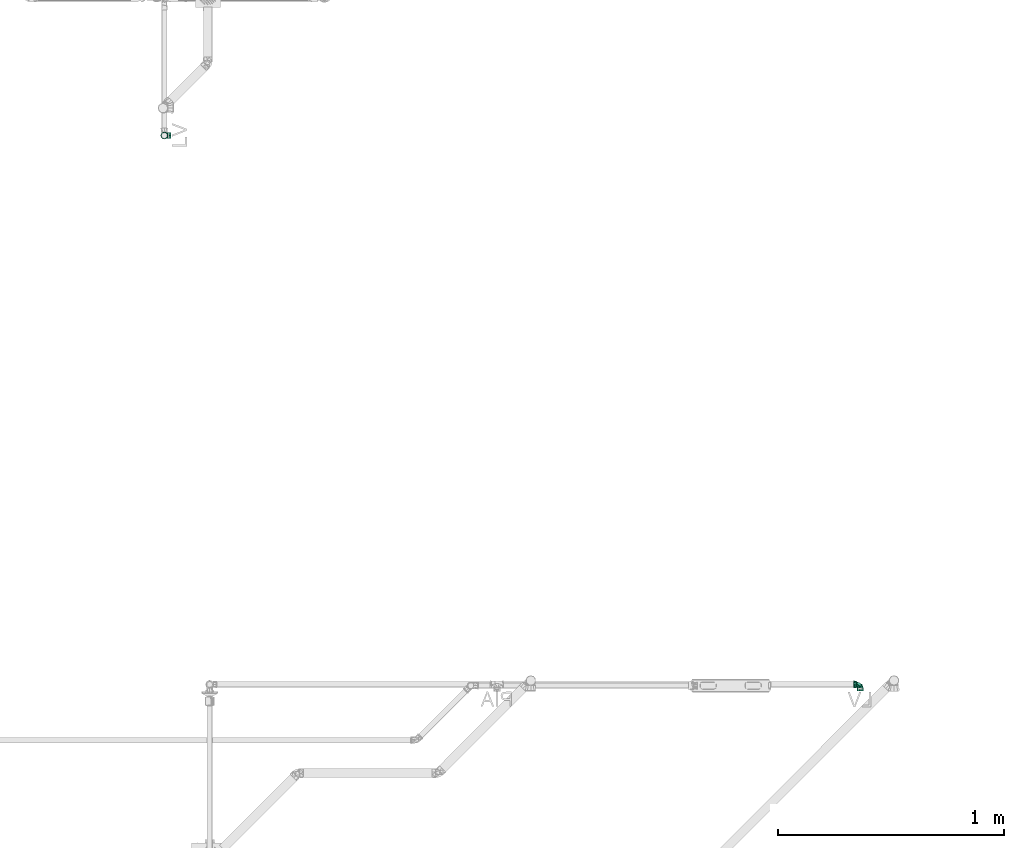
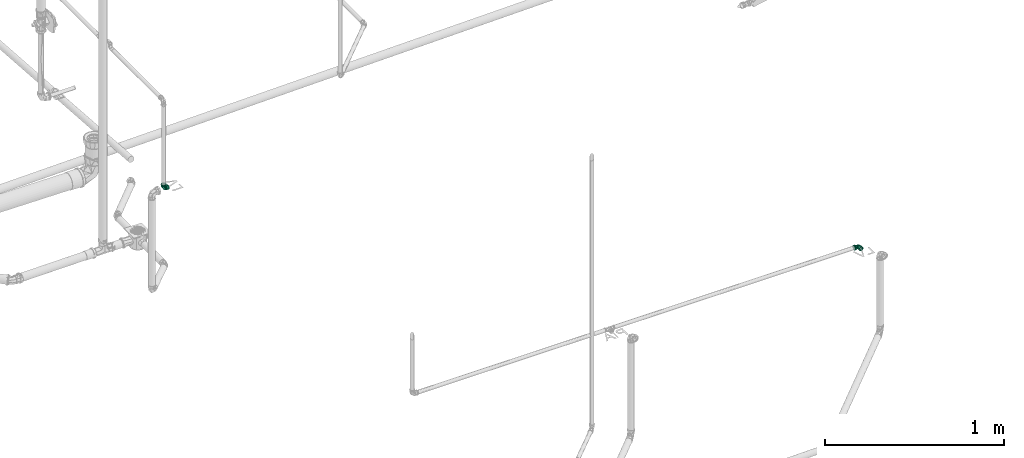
# One storey, part 352 of 589: 2 flow fittings.
"""IFC2X3 building model written with IfcOpenShell, lengths in millimetres."""

from ifc_helpers import new_model, entity, si_unit, converted_unit, derived_unit, direction, frame, origin, place, context, subcontext, project, spatial, faceted_brep, source, transform, mapped, material, type_object, type_shapes, element, save


model = new_model("IFC2X3")

# Units and contexts
model_context = context("Model", 3, precision=0.01, world=origin(), true_north=direction((6.123031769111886e-17, 1.0)))
body_context = subcontext(model_context, "Body", "Model", "MODEL_VIEW")
ifc_project = project(units=[si_unit("LENGTHUNIT", "METRE", prefix="MILLI"), si_unit("AREAUNIT", "SQUARE_METRE"), si_unit("VOLUMEUNIT", "CUBIC_METRE"), converted_unit("PLANEANGLEUNIT", "DEGREE", entity("IfcRatioMeasure", 0.017453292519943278), si_unit("PLANEANGLEUNIT", "RADIAN"), dimensions=[0, 0, 0, 0, 0, 0, 0]), si_unit("MASSUNIT", "GRAM", prefix="KILO"), derived_unit("MASSDENSITYUNIT", [(si_unit("MASSUNIT", "GRAM", prefix="KILO"), 1), (si_unit("LENGTHUNIT", "METRE"), -3)]), derived_unit("IONCONCENTRATIONUNIT", [(si_unit("MASSUNIT", "GRAM", prefix="KILO"), 1), (si_unit("LENGTHUNIT", "METRE"), -3)]), derived_unit("MOMENTOFINERTIAUNIT", [(si_unit("LENGTHUNIT", "METRE"), 4)]), si_unit("TIMEUNIT", "SECOND"), si_unit("FREQUENCYUNIT", "HERTZ"), si_unit("THERMODYNAMICTEMPERATUREUNIT", "DEGREE_CELSIUS"), derived_unit("THERMALTRANSMITTANCEUNIT", [(si_unit("MASSUNIT", "GRAM", prefix="KILO"), 1), (si_unit("THERMODYNAMICTEMPERATUREUNIT", "KELVIN"), -1), (si_unit("TIMEUNIT", "SECOND"), -3)]), derived_unit("THERMALCONDUCTANCEUNIT", [(si_unit("MASSUNIT", "GRAM", prefix="KILO"), 1), (si_unit("THERMODYNAMICTEMPERATUREUNIT", "KELVIN"), -1), (si_unit("TIMEUNIT", "SECOND"), -3), (si_unit("LENGTHUNIT", "METRE"), 1)]), derived_unit("VOLUMETRICFLOWRATEUNIT", [(si_unit("LENGTHUNIT", "METRE"), 3), (si_unit("TIMEUNIT", "SECOND"), -1)]), derived_unit("MASSFLOWRATEUNIT", [(si_unit("MASSUNIT", "GRAM", prefix="KILO"), 1), (si_unit("TIMEUNIT", "SECOND"), -1)]), derived_unit("ROTATIONALFREQUENCYUNIT", [(si_unit("TIMEUNIT", "SECOND"), -1)]), si_unit("ELECTRICCURRENTUNIT", "AMPERE"), si_unit("ELECTRICVOLTAGEUNIT", "VOLT"), si_unit("POWERUNIT", "WATT"), si_unit("FORCEUNIT", "NEWTON", prefix="KILO"), si_unit("ILLUMINANCEUNIT", "LUX"), si_unit("LUMINOUSFLUXUNIT", "LUMEN"), si_unit("LUMINOUSINTENSITYUNIT", "CANDELA"), derived_unit("USERDEFINED", [(si_unit("MASSUNIT", "GRAM", prefix="KILO"), -1), (si_unit("LENGTHUNIT", "METRE"), -2), (si_unit("TIMEUNIT", "SECOND"), 3), (si_unit("LUMINOUSFLUXUNIT", "LUMEN"), 1)]), derived_unit("USERDEFINED", [(si_unit("MASSUNIT", "GRAM", prefix="KILO"), 1), (si_unit("TIMEUNIT", "SECOND"), -3), (si_unit("LENGTHUNIT", "METRE"), 3), (si_unit("ELECTRICCURRENTUNIT", "AMPERE"), -2)]), derived_unit("SOUNDPOWERUNIT", [(si_unit("MASSUNIT", "GRAM", prefix="KILO"), 1), (si_unit("TIMEUNIT", "SECOND"), -3), (si_unit("LENGTHUNIT", "METRE"), 2)]), derived_unit("SOUNDPRESSUREUNIT", [(si_unit("MASSUNIT", "GRAM", prefix="KILO"), 1), (si_unit("LENGTHUNIT", "METRE"), -1), (si_unit("TIMEUNIT", "SECOND"), -2)]), derived_unit("LINEARVELOCITYUNIT", [(si_unit("LENGTHUNIT", "METRE"), 1), (si_unit("TIMEUNIT", "SECOND"), -1)]), si_unit("PRESSUREUNIT", "PASCAL"), derived_unit("USERDEFINED", [(si_unit("MASSUNIT", "GRAM", prefix="KILO"), 1), (si_unit("LENGTHUNIT", "METRE"), -2), (si_unit("TIMEUNIT", "SECOND"), -2)]), derived_unit("LINEARFORCEUNIT", [(si_unit("MASSUNIT", "GRAM", prefix="KILO"), 1), (si_unit("TIMEUNIT", "SECOND"), -2)]), derived_unit("PLANARFORCEUNIT", [(si_unit("MASSUNIT", "GRAM", prefix="KILO"), 1), (si_unit("LENGTHUNIT", "METRE"), -1), (si_unit("TIMEUNIT", "SECOND"), -2)]), derived_unit("SPECIFICHEATCAPACITYUNIT", [(si_unit("THERMODYNAMICTEMPERATUREUNIT", "KELVIN"), -1), (si_unit("LENGTHUNIT", "METRE"), 2), (si_unit("TIMEUNIT", "SECOND"), -2)]), derived_unit("HEATINGVALUEUNIT", [(si_unit("LENGTHUNIT", "METRE"), 2), (si_unit("TIMEUNIT", "SECOND"), -2)]), derived_unit("VAPORPERMEABILITYUNIT", [(si_unit("LENGTHUNIT", "METRE"), -1), (si_unit("TIMEUNIT", "SECOND"), 1)]), derived_unit("DYNAMICVISCOSITYUNIT", [(si_unit("MASSUNIT", "GRAM", prefix="KILO"), 1), (si_unit("TIMEUNIT", "SECOND"), -1), (si_unit("LENGTHUNIT", "METRE"), -1)]), derived_unit("THERMALEXPANSIONCOEFFICIENTUNIT", [(si_unit("THERMODYNAMICTEMPERATUREUNIT", "KELVIN"), -1)]), derived_unit("MODULUSOFELASTICITYUNIT", [(si_unit("MASSUNIT", "GRAM", prefix="KILO"), 1), (si_unit("LENGTHUNIT", "METRE"), -1), (si_unit("TIMEUNIT", "SECOND"), -2)]), derived_unit("ISOTHERMALMOISTURECAPACITYUNIT", [(si_unit("LENGTHUNIT", "METRE"), 3), (si_unit("MASSUNIT", "GRAM", prefix="KILO"), -1)]), derived_unit("MOISTUREDIFFUSIVITYUNIT", [(si_unit("TIMEUNIT", "SECOND"), -1), (si_unit("LENGTHUNIT", "METRE"), 2)])], contexts=[model_context])

# Site, building, storey
site_placement = place(None, origin())
site = spatial("IfcSite", under=ifc_project, at=site_placement, Name="Default", CompositionType="ELEMENT")
building_placement = place(site_placement, origin())
building = spatial("IfcBuilding", under=site, at=building_placement, CompositionType="ELEMENT")
storey_placement = place(building_placement, frame((0.0, 0.0, 100.0)))
storey = spatial("IfcBuildingStorey", under=building, at=storey_placement, Name="TÉRREO", CompositionType="ELEMENT", Elevation=100.0)

# Flow fittings
ifc_material = material(Name="PVC Azul")
pipe_fitting_type = type_object("IfcPipeFittingType", Name="PVC Marrom Soldável_Joelho 90° Azul com Bucha de Latão_Rodrigo MEP:Joelho_20x1/2''_ 25x1/2''_ 25x3/4'' _ 32x3/4''", PredefinedType="NOTDEFINED", material=ifc_material)
shared_shape = source(origin(), body_context, "Body", "Brep", [
    faceted_brep([(-16.299999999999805, 2.5881904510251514, -9.659258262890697), (-16.299999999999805, -2.588190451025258, -9.659258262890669), (-16.299999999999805, -3.7528761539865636, -14.005924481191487), (-16.299999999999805, 3.7528761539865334, -14.005924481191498), (-16.299999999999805, 8.660254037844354, -5.0), (-16.299999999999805, -12.557368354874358, -7.249999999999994), (-16.299999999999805, -8.660254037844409, -5.0), (-16.299999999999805, -10.0, 0.0), (-16.299999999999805, -14.499999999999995, 0.0), (-16.299999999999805, -8.660254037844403, 5.0), (-16.299999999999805, -12.557368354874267, 7.250000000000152), (-16.299999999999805, -2.5881904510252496, 9.659258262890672), (-16.299999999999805, -3.752876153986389, 14.005924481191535), (-16.299999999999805, 2.5881904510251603, 9.659258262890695), (-16.299999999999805, 3.752876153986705, 14.005924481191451), (-16.299999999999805, 8.660254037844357, 5.0), (-16.299999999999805, 12.557368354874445, 7.2499999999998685), (-16.299999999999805, 14.500000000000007, 0.0), (-16.299999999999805, 10.0, 0.0), (-16.299999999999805, 12.557368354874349, -7.250000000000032), (-23.799999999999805, 14.500000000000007, 0.0), (-25.7999999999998, 14.500000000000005, 0.0), (-29.7999999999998, 14.500000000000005, 0.0), (-29.7999999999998, 12.557368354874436, 7.24999999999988), (-25.7999999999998, 12.557368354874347, 7.250000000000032), (-23.799999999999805, 12.557368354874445, 7.2499999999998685), (-29.7999999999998, 3.7528761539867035, 14.005924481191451), (-25.7999999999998, 3.7528761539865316, 14.005924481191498), (-23.799999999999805, 3.752876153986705, 14.005924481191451), (-29.7999999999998, -3.75287615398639, 14.005924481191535), (-25.7999999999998, -3.752876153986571, 14.005924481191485), (-23.799999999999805, -3.752876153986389, 14.005924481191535), (-29.7999999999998, -12.557368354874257, 7.250000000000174), (-25.7999999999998, -12.557368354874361, 7.24999999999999), (-23.799999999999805, -12.557368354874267, 7.250000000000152), (-29.7999999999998, -14.499999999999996, 0.0), (-25.7999999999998, -14.499999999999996, 0.0), (-23.799999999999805, -14.499999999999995, 0.0), (-29.7999999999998, -12.557368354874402, -7.249999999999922), (-25.7999999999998, -12.557368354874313, -7.250000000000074), (-23.799999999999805, -12.557368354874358, -7.249999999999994), (-29.7999999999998, -3.752876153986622, -14.005924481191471), (-25.7999999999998, -3.752876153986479, -14.00592448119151), (-23.799999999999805, -3.7528761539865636, -14.005924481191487), (-29.7999999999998, 3.752876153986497, -14.005924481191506), (-25.7999999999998, 3.7528761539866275, -14.005924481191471), (-23.799999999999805, 3.7528761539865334, -14.005924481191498), (-29.7999999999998, 12.557368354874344, -7.250000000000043), (-25.7999999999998, 12.55736835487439, -7.249999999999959), (-23.799999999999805, 12.557368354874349, -7.250000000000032), (-29.7999999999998, -10.0, 0.0), (-29.7999999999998, -8.660254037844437, 5.0), (-29.7999999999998, -2.5881904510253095, 9.659258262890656), (-29.7999999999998, 2.5881904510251, 9.659258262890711), (-29.7999999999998, 8.660254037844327, 5.0), (-29.79999999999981, 10.0, 0.0), (-29.7999999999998, 8.660254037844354, -5.0), (-29.7999999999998, 2.588190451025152, -9.659258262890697), (-29.7999999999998, -2.588190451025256, -9.659258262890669), (-29.7999999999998, -8.66025403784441, -5.0)], [[[0, 1, 2]], [[2, 3, 0]], [[4, 0, 3]], [[5, 2, 1]], [[1, 6, 5]], [[6, 7, 5]], [[8, 5, 7]], [[8, 7, 9]], [[10, 8, 9]], [[9, 11, 10]], [[11, 12, 10]], [[13, 12, 11]], [[12, 13, 14]], [[13, 15, 14]], [[16, 14, 15]], [[16, 15, 17]], [[17, 15, 18]], [[18, 4, 19]], [[17, 18, 19]], [[3, 19, 4]], [[17, 20, 21, 22, 23, 24, 25, 16]], [[16, 25, 24, 23, 26, 27, 28, 14]], [[28, 27, 26, 29, 30, 31, 12, 14]], [[12, 31, 30, 29, 32, 33, 34, 10]], [[10, 34, 33, 32, 35, 36, 37, 8]], [[8, 37, 36, 35, 38, 39, 40, 5]], [[5, 40, 39, 38, 41, 42, 43, 2]], [[43, 42, 41, 44, 45, 46, 3, 2]], [[3, 46, 45, 44, 47, 48, 49, 19]], [[19, 49, 48, 47, 22, 21, 20, 17]], [[9, 7, 50, 51]], [[11, 9, 51, 52]], [[52, 53, 13, 11]], [[15, 13, 53, 54]], [[18, 15, 54, 55]], [[4, 18, 55, 56]], [[0, 4, 56, 57]], [[57, 58, 1, 0]], [[6, 1, 58, 59]], [[7, 6, 59, 50]], [[41, 58, 57]], [[58, 41, 38]], [[57, 44, 41]], [[38, 59, 58]], [[38, 50, 59]], [[50, 38, 35]], [[51, 50, 35]], [[51, 35, 32]], [[32, 52, 51]], [[32, 29, 52]], [[52, 29, 53]], [[26, 53, 29]], [[26, 54, 53]], [[54, 26, 23]], [[22, 54, 23]], [[55, 54, 22]], [[47, 55, 22]], [[47, 56, 55]], [[56, 47, 44]], [[44, 57, 56]]]),
    faceted_brep([(-16.299999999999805, -12.557368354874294, -7.250000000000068), (-16.299999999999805, -14.499999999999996, 0.0), (-16.299999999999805, -12.55736835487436, 7.249999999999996), (-16.299999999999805, -3.752876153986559, 14.005924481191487), (-16.299999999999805, 3.752876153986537, 14.005924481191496), (-16.299999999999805, 12.557368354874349, 7.250000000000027), (-16.299999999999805, 14.500000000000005, 0.0), (-16.299999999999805, 12.557368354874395, -7.249999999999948), (-16.299999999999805, 3.75287615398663, -14.005924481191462), (-16.299999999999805, -3.7528761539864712, -14.005924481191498), (-14.299999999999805, 3.6338193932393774, 13.56159860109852), (-14.299999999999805, -3.633819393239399, 13.561598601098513), (-14.299999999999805, -12.158996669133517, 7.019999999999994), (-14.299999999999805, -14.039999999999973, 0.0), (-14.299999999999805, -12.158996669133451, -7.020000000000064), (-14.299999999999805, -3.6338193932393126, -13.561598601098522), (-14.299999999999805, 3.633819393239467, -13.561598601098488), (-14.299999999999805, 12.158996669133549, -7.01999999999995), (-14.299999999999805, 14.040000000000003, 0.0), (-14.299999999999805, 12.158996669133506, 7.020000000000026)], [[[0, 1, 2, 3, 4, 5, 6, 7, 8, 9]], [[10, 11, 12, 13, 14, 15, 16, 17, 18, 19]], [[7, 6, 18, 17]], [[8, 7, 17, 16]], [[16, 15, 9, 8]], [[0, 9, 15, 14]], [[1, 0, 14, 13]], [[2, 1, 13, 12]], [[3, 2, 12, 11]], [[11, 10, 4, 3]], [[5, 4, 10, 19]], [[6, 5, 19, 18]]]),
    faceted_brep([(-3.1058285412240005, 14.30000000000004, 11.591109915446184), (-10.392304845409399, 14.30000000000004, 6.0), (-12.0, 14.30000000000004, 0.0), (-10.392304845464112, 14.30000000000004, -6.0), (-3.105828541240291, 14.30000000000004, -11.591109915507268), (3.1058285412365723, 14.30000000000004, -11.591109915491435), (10.392304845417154, 14.30000000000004, -6.0), (12.0, 14.30000000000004, 0.0), (10.392304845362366, 14.30000000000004, 6.0), (3.105828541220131, 14.30000000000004, 11.59110991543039), (11.490129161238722, 16.29999999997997, -9.64245465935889), (15.0, 16.300000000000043, 0.0), (2.6030757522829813, 16.29999999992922, -14.772406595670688), (-15.0, 16.299999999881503, 0.0), (-11.492547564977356, 16.299999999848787, -9.639572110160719), (-11.4925475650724, 16.300000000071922, 9.639572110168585), (-2.606781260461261, 16.300000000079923, 14.771753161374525), (11.490129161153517, 16.300000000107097, 9.642454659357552), (15.0, 23.800000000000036, 0.0), (11.490129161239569, 23.800000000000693, 9.64245465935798), (-2.606781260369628, 23.800000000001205, 14.771753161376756), (-11.492547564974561, 23.800000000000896, 9.63957211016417), (-15.0, 23.800000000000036, 0.0), (-11.492547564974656, 23.79999999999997, -9.639572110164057), (2.603075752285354, 23.799999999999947, -14.772406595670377), (11.4901291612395, 23.799999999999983, -9.642454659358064), (-12.639142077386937, 25.800000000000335, 10.606700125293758), (-16.500000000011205, 25.800000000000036, 0.0), (-2.8633833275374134, 25.800000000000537, 16.249647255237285), (12.641802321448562, 25.800000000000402, 10.603529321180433), (16.499999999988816, 25.800000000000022, 0.0), (12.641802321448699, 25.800000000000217, -10.603529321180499), (2.867459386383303, 25.800000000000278, -16.24892847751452), (-12.639142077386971, 25.800000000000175, -10.606700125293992), (-4.270514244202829, 29.30000000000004, -15.937776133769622), (-3.235238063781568, 29.30000000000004, -12.074072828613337), (3.235238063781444, 29.30000000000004, -12.074072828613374), (-14.28941916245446, 29.30000000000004, -8.249999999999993), (4.27051424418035, 29.30000000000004, -15.937776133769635), (-10.825317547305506, 29.30000000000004, -6.249999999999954), (-12.499999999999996, 29.30000000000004, 0.0), (-16.500000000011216, 29.30000000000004, 0.0), (-10.825317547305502, 29.30000000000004, 6.249999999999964), (-14.289419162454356, 29.30000000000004, 8.250000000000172), (-3.2352380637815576, 29.30000000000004, 12.074072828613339), (-4.27051424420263, 29.30000000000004, 15.937776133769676), (3.235238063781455, 29.30000000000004, 12.07407282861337), (4.2705142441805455, 29.30000000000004, 15.937776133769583), (10.82531754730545, 29.30000000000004, 6.250000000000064), (14.289419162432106, 29.30000000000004, 8.249999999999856), (16.499999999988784, 29.30000000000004, 0.0), (12.500000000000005, 29.30000000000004, 0.0), (14.289419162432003, 29.30000000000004, -8.250000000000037), (10.825317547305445, 29.30000000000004, -6.250000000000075), (-10.825317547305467, 16.300000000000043, -6.2500000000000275), (-12.499999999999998, 16.300000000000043, 0.0), (-10.825317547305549, 16.300000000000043, 6.249999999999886), (-3.2352380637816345, 16.30000000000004, 12.074072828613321), (3.2352380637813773, 16.30000000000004, 12.07407282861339), (10.825317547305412, 16.300000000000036, 6.250000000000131), (12.500000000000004, 16.300000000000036, 0.0), (10.82531754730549, 16.300000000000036, -6.249999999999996), (3.235238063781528, 16.30000000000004, -12.07407282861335), (-3.2352380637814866, 16.30000000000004, -12.07407282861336)], [[[0, 1, 2, 3, 4, 5, 6, 7, 8, 9]], [[6, 5, 10]], [[7, 6, 11]], [[11, 6, 10]], [[5, 12, 10]], [[3, 2, 13]], [[4, 3, 14]], [[4, 14, 12]], [[14, 3, 13]], [[4, 12, 5]], [[1, 0, 15]], [[2, 1, 13]], [[13, 1, 15]], [[0, 16, 15]], [[8, 7, 11]], [[9, 8, 17]], [[9, 17, 16]], [[17, 8, 11]], [[9, 16, 0]], [[18, 19, 17, 11]], [[17, 19, 20, 16]], [[21, 22, 13, 15]], [[21, 15, 16, 20]], [[22, 23, 14, 13]], [[14, 23, 24, 12]], [[25, 18, 11, 10]], [[25, 10, 12, 24]], [[21, 20, 26]], [[22, 21, 27]], [[27, 21, 26]], [[20, 28, 26]], [[19, 18, 29]], [[29, 28, 19]], [[30, 29, 18]], [[19, 28, 20]], [[18, 25, 31]], [[31, 30, 18]], [[32, 31, 25]], [[25, 24, 32]], [[23, 22, 27]], [[23, 33, 24]], [[33, 23, 27]], [[24, 33, 32]], [[34, 35, 36]], [[35, 34, 37]], [[36, 38, 34]], [[37, 39, 35]], [[37, 40, 39]], [[40, 37, 41]], [[42, 40, 41]], [[42, 41, 43]], [[43, 44, 42]], [[43, 45, 44]], [[44, 45, 46]], [[47, 46, 45]], [[47, 48, 46]], [[48, 47, 49]], [[50, 48, 49]], [[51, 48, 50]], [[52, 51, 50]], [[52, 53, 51]], [[53, 52, 38]], [[38, 36, 53]], [[50, 49, 30]], [[49, 29, 30]], [[29, 49, 47]], [[29, 47, 28]], [[26, 45, 43]], [[27, 43, 41]], [[45, 26, 28]], [[26, 43, 27]], [[45, 28, 47]], [[41, 37, 27]], [[37, 33, 27]], [[33, 37, 34]], [[33, 34, 32]], [[31, 38, 52]], [[30, 52, 50]], [[38, 31, 32]], [[31, 52, 30]], [[38, 32, 34]], [[54, 55, 56, 57, 58, 59, 60, 61, 62, 63]], [[56, 55, 40, 42]], [[57, 56, 42, 44]], [[44, 46, 58, 57]], [[59, 58, 46, 48]], [[60, 59, 48, 51]], [[61, 60, 51, 53]], [[62, 61, 53, 36]], [[36, 35, 63, 62]], [[54, 63, 35, 39]], [[55, 54, 39, 40]]]),
    faceted_brep([(3.1056480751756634, 14.299999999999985, 11.590538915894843), (10.391809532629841, 14.299999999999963, 5.999601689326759), (12.0, 14.299999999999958, 0.0), (10.39180953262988, 14.299999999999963, -5.999601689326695), (3.1056480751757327, 14.299999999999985, -11.590538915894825), (-3.10520360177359, 14.300000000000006, -11.590281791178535), (-10.38010506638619, 14.300000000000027, -5.994904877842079), (-12.0, 14.300000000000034, 0.0), (-10.380105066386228, 14.300000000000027, 5.994904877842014), (-3.1052036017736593, 14.300000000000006, 11.590281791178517), (-14.299999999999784, 3.633088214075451, 13.560629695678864), (-14.299999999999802, 12.144722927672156, 7.014038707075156), (-14.299999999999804, 14.040000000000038, 0.0), (-14.299999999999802, 12.144722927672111, -7.0140387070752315), (-14.299999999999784, 3.63308821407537, -13.560629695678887), (-14.299999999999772, -3.633608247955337, -13.560930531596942), (-14.299999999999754, -12.158417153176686, -7.019533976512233), (-14.299999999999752, -14.039999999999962, 0.0), (-14.299999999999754, -12.158417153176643, 7.019533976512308), (-14.299999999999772, -3.6336082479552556, 13.560930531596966), (-0.47130784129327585, -9.652655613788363, 0.0), (-13.394903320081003, 13.394903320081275, 0.0), (-11.731981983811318, 9.090980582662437, -10.425762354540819), (7.7003635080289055, 3.2782377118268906, -7.250992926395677), (-4.216463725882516, 4.16036367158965, -13.02360333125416), (0.005590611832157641, -4.597653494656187, -9.261535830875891), (-1.015336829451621, 9.007807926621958, -12.492335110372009), (-10.008512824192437, 11.46627786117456, -8.88261575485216), (3.673289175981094, -1.6924555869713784, 0.0), (-4.216465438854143, 4.1603653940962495, 13.02360333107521), (-11.731981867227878, 9.090980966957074, 10.425762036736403), (-10.008512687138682, 11.466278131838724, 8.882615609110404), (7.700363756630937, 3.278237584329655, 7.250992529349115), (0.00558956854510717, -4.597653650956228, 9.26153641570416), (-1.0153385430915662, 9.00780860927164, 12.492335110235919)], [[[0, 1, 2, 3, 4, 5, 6, 7, 8, 9]], [[10, 11, 12, 13, 14, 15, 16, 17, 18, 19]], [[20, 17, 16]], [[21, 22, 13]], [[4, 3, 23]], [[15, 24, 25]], [[26, 24, 27]], [[25, 23, 28]], [[15, 25, 16]], [[28, 20, 25]], [[23, 24, 26]], [[24, 14, 22]], [[26, 4, 23]], [[24, 22, 27]], [[14, 13, 22]], [[20, 16, 25]], [[13, 12, 21]], [[27, 22, 21]], [[2, 28, 23]], [[27, 5, 26]], [[27, 21, 7]], [[7, 6, 27]], [[27, 6, 5]], [[15, 14, 24]], [[2, 23, 3]], [[5, 4, 26]], [[23, 25, 24]], [[21, 12, 11]], [[29, 30, 10]], [[31, 9, 8]], [[29, 31, 30]], [[32, 29, 33]], [[21, 31, 7]], [[18, 20, 33]], [[31, 29, 34]], [[11, 10, 30]], [[31, 34, 9]], [[7, 31, 8]], [[21, 30, 31]], [[19, 18, 33]], [[32, 33, 28]], [[18, 17, 20]], [[20, 28, 33]], [[32, 34, 29]], [[19, 33, 29]], [[30, 21, 11]], [[34, 32, 0]], [[32, 2, 1]], [[10, 19, 29]], [[32, 1, 0]], [[0, 9, 34]], [[2, 32, 28]]]),
])
type_shapes(pipe_fitting_type, [shared_shape])
for number, where, z_axis, x_axis in (
    (1, (-4487.991809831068, -4322.125782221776, 600.0009352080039), (1.9008292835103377e-06, 0.0, 1.0), (0.0, 1.0, 0.0)),
    (2, (-7562.714972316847, -1896.6798231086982, 600.0), (0.0, 1.0, 0.0), (-1.0, 0.0, 0.0)),
):
    element("IfcFlowFitting", number, at=place(storey_placement, frame(where, z_axis=z_axis, x_axis=x_axis)), inside=storey, type_object=pipe_fitting_type, material=ifc_material, Name="PVC Marrom Soldável_Joelho 90° Azul com Bucha de Latão_Rodrigo MEP:Joelho_20x1/2''_ 25x1/2''_ 25x3/4'' _ 32x3/4''", ObjectType="PVC Marrom Soldável_Joelho 90° Azul com Bucha de Latão_Rodrigo MEP:Joelho_20x1/2''_ 25x1/2''_ 25x3/4'' _ 32x3/4''", context=body_context, shape_type="MappedRepresentation", body=[
        mapped(shared_shape, transform((0.0, 0.0, 0.0), scale=1.0)),
    ])

save(model, "model.ifc")
